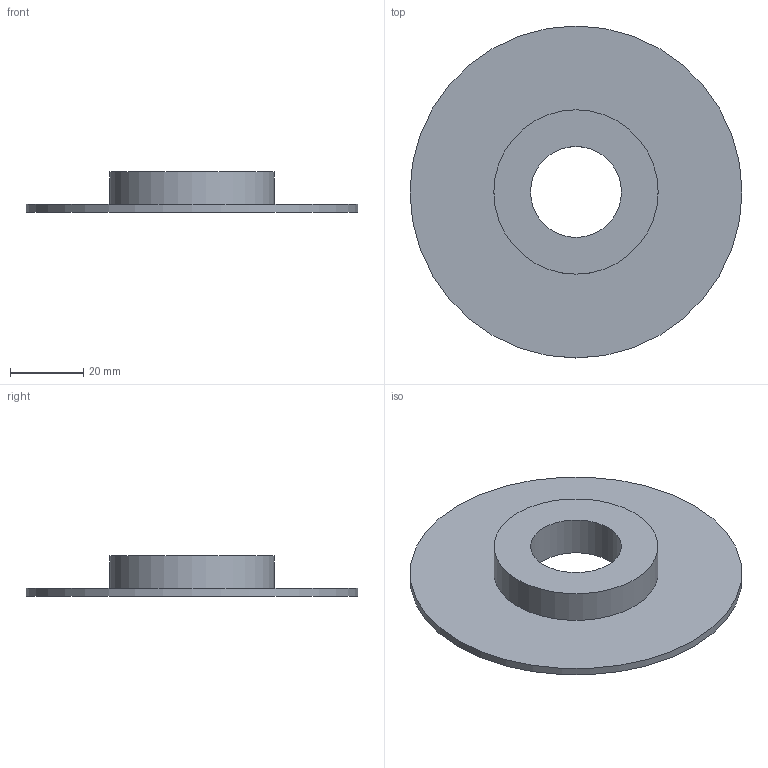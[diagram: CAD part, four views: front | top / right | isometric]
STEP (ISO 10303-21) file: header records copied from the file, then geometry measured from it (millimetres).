
FILE_DESCRIPTION(('Mechanical CAD reference from nasji.com'),'2;1');
FILE_NAME('NASJI.step','',(''),(''),'','NASJI distribution','');
FILE_SCHEMA(('AUTOMOTIVE_DESIGN { 1 0 10303 214 1 1 1 1 }'));
Length unit declared in the file: millimetre
Products named in the file (1): Open CASCADE STEP translator 7.8 106
Bounding box: 90.9 x 90.9 x 11 mm (x, y, z)
Volume: 22426.5 mm3; surface area: 14723.7 mm2
Topology: 1 solids, 1 shells, 6 faces, 9 edges, 6 vertices
Faces by surface type: plane 3, cylinder 3
Full cylindrical faces by diameter (mm): 24.9 x1, 45 x1, 90.9 x1
Entity records: 270 total; most frequent: DIRECTION 47, CARTESIAN_POINT 40, ORIENTED_EDGE 18, PCURVE 18, DEFINITIONAL_REPRESENTATION 18, LINE 15, VECTOR 15, AXIS2_PLACEMENT_3D 13
